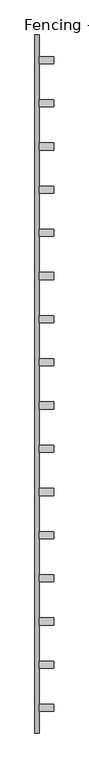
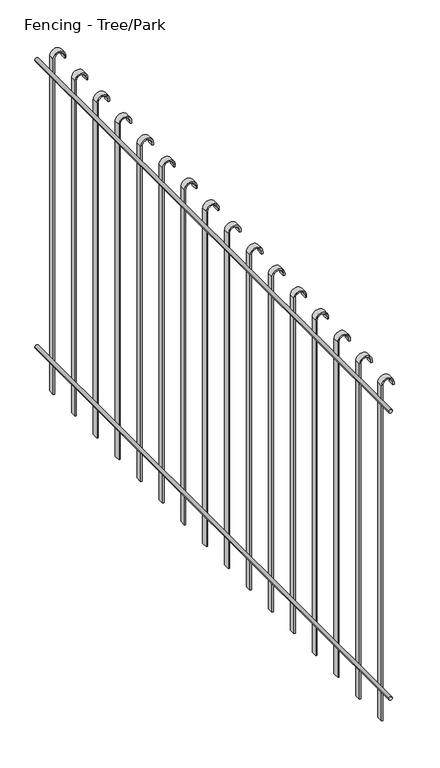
"""IFC4 building model written with IfcOpenShell, lengths in millimetres: railing geometry, Fencing - Tree/Park."""

from ifc_helpers import new_model, si_unit, point, frame, frame_2d, origin, place, context, project, spatial, polyline, circle_curve, trimmed, segment, composite_curve, outline, extrude, source, transform, mapped, element, save


def fencing_tree_park_201aa649(model_context):
    return source(origin(), model_context, "Body", "SweptSolid", [
        extrude(outline(composite_curve([segment(trimmed(circle_curve(frame_2d((4192.5, -12795.7705062)), 7.5), [point((4192.5, -12788.2705062))], [point((4192.5, -12803.2705062))], False, "CARTESIAN"), True, "CONTINUOUS"), segment(trimmed(circle_curve(frame_2d((4192.5, -12795.7705062)), 7.5), [point((4192.5, -12803.2705062))], [point((4192.5, -12788.2705062))], False, "CARTESIAN"), True, "CONTINUOUS")], self_intersect=False)), frame((0.0, -35505.9199596, 0.0), z_axis=(0.0, 1.0, 0.0), x_axis=(0.0, 0.0, 1.0)), (0.0, 0.0, 1.0), 2425.0),
        extrude(outline(composite_curve([segment(trimmed(circle_curve(frame_2d((2992.5, -12795.7705062)), 7.5), [point((2992.5, -12788.2705062))], [point((2992.5, -12803.2705062))], False, "CARTESIAN"), True, "CONTINUOUS"), segment(trimmed(circle_curve(frame_2d((2992.5, -12795.7705062)), 7.5), [point((2992.5, -12803.2705062))], [point((2992.5, -12788.2705062))], False, "CARTESIAN"), True, "CONTINUOUS")], self_intersect=False)), frame((0.0, -35505.9199596, 0.0), z_axis=(0.0, 1.0, 0.0), x_axis=(0.0, 0.0, 1.0)), (0.0, 0.0, 1.0), 2425.0),
        extrude(outline(composite_curve([segment(polyline([(4250.0, -12788.2705062), (2850.0, -12788.2705062), (2850.0, -12783.2705062), (4250.0, -12783.2705062)]), True, "CONTINUOUS"), segment(trimmed(circle_curve(frame_2d((4250.0, -12763.2705062)), 20.0), [point((4250.0, -12783.2705062))], [point((4250.0, -12743.2705062))], True, "CARTESIAN"), True, "CONTINUOUS"), segment(polyline([(4250.0, -12743.2705062), (4240.0, -12743.2705062), (4240.0, -12738.2705062), (4250.0, -12738.2705062)]), True, "CONTINUOUS"), segment(trimmed(circle_curve(frame_2d((4250.0, -12763.2705062)), 25.0), [point((4250.0, -12738.2705062))], [point((4250.0, -12788.2705062))], False, "CARTESIAN"), True, "CONTINUOUS")], self_intersect=False)), frame((0.0, -35430.9199596, 0.0), z_axis=(0.0, 1.0, 0.0), x_axis=(0.0, 0.0, 1.0)), (0.0, 0.0, 1.0), 25.0),
        extrude(outline(composite_curve([segment(polyline([(4250.0, -12788.2705062), (2850.0, -12788.2705062), (2850.0, -12783.2705062), (4250.0, -12783.2705062)]), True, "CONTINUOUS"), segment(trimmed(circle_curve(frame_2d((4250.0, -12763.2705062)), 20.0), [point((4250.0, -12783.2705062))], [point((4250.0, -12743.2705062))], True, "CARTESIAN"), True, "CONTINUOUS"), segment(polyline([(4250.0, -12743.2705062), (4240.0, -12743.2705062), (4240.0, -12738.2705062), (4250.0, -12738.2705062)]), True, "CONTINUOUS"), segment(trimmed(circle_curve(frame_2d((4250.0, -12763.2705062)), 25.0), [point((4250.0, -12738.2705062))], [point((4250.0, -12788.2705062))], False, "CARTESIAN"), True, "CONTINUOUS")], self_intersect=False)), frame((0.0, -35280.9199596, 0.0), z_axis=(0.0, 1.0, 0.0), x_axis=(0.0, 0.0, 1.0)), (0.0, 0.0, 1.0), 25.0),
        extrude(outline(composite_curve([segment(polyline([(4250.0, -12788.2705062), (2850.0, -12788.2705062), (2850.0, -12783.2705062), (4250.0, -12783.2705062)]), True, "CONTINUOUS"), segment(trimmed(circle_curve(frame_2d((4250.0, -12763.2705062)), 20.0), [point((4250.0, -12783.2705062))], [point((4250.0, -12743.2705062))], True, "CARTESIAN"), True, "CONTINUOUS"), segment(polyline([(4250.0, -12743.2705062), (4240.0, -12743.2705062), (4240.0, -12738.2705062), (4250.0, -12738.2705062)]), True, "CONTINUOUS"), segment(trimmed(circle_curve(frame_2d((4250.0, -12763.2705062)), 25.0), [point((4250.0, -12738.2705062))], [point((4250.0, -12788.2705062))], False, "CARTESIAN"), True, "CONTINUOUS")], self_intersect=False)), frame((0.0, -35130.9199596, 0.0), z_axis=(0.0, 1.0, 0.0), x_axis=(0.0, 0.0, 1.0)), (0.0, 0.0, 1.0), 25.0),
        extrude(outline(composite_curve([segment(polyline([(4250.0, -12788.2705062), (2850.0, -12788.2705062), (2850.0, -12783.2705062), (4250.0, -12783.2705062)]), True, "CONTINUOUS"), segment(trimmed(circle_curve(frame_2d((4250.0, -12763.2705062)), 20.0), [point((4250.0, -12783.2705062))], [point((4250.0, -12743.2705062))], True, "CARTESIAN"), True, "CONTINUOUS"), segment(polyline([(4250.0, -12743.2705062), (4240.0, -12743.2705062), (4240.0, -12738.2705062), (4250.0, -12738.2705062)]), True, "CONTINUOUS"), segment(trimmed(circle_curve(frame_2d((4250.0, -12763.2705062)), 25.0), [point((4250.0, -12738.2705062))], [point((4250.0, -12788.2705062))], False, "CARTESIAN"), True, "CONTINUOUS")], self_intersect=False)), frame((0.0, -34980.9199596, 0.0), z_axis=(0.0, 1.0, 0.0), x_axis=(0.0, 0.0, 1.0)), (0.0, 0.0, 1.0), 25.0),
        extrude(outline(composite_curve([segment(polyline([(4250.0, -12788.2705062), (2850.0, -12788.2705062), (2850.0, -12783.2705062), (4250.0, -12783.2705062)]), True, "CONTINUOUS"), segment(trimmed(circle_curve(frame_2d((4250.0, -12763.2705062)), 20.0), [point((4250.0, -12783.2705062))], [point((4250.0, -12743.2705062))], True, "CARTESIAN"), True, "CONTINUOUS"), segment(polyline([(4250.0, -12743.2705062), (4240.0, -12743.2705062), (4240.0, -12738.2705062), (4250.0, -12738.2705062)]), True, "CONTINUOUS"), segment(trimmed(circle_curve(frame_2d((4250.0, -12763.2705062)), 25.0), [point((4250.0, -12738.2705062))], [point((4250.0, -12788.2705062))], False, "CARTESIAN"), True, "CONTINUOUS")], self_intersect=False)), frame((0.0, -34830.9199596, 0.0), z_axis=(0.0, 1.0, 0.0), x_axis=(0.0, 0.0, 1.0)), (0.0, 0.0, 1.0), 25.0),
        extrude(outline(composite_curve([segment(polyline([(4250.0, -12788.2705062), (2850.0, -12788.2705062), (2850.0, -12783.2705062), (4250.0, -12783.2705062)]), True, "CONTINUOUS"), segment(trimmed(circle_curve(frame_2d((4250.0, -12763.2705062)), 20.0), [point((4250.0, -12783.2705062))], [point((4250.0, -12743.2705062))], True, "CARTESIAN"), True, "CONTINUOUS"), segment(polyline([(4250.0, -12743.2705062), (4240.0, -12743.2705062), (4240.0, -12738.2705062), (4250.0, -12738.2705062)]), True, "CONTINUOUS"), segment(trimmed(circle_curve(frame_2d((4250.0, -12763.2705062)), 25.0), [point((4250.0, -12738.2705062))], [point((4250.0, -12788.2705062))], False, "CARTESIAN"), True, "CONTINUOUS")], self_intersect=False)), frame((0.0, -34680.9199596, 0.0), z_axis=(0.0, 1.0, 0.0), x_axis=(0.0, 0.0, 1.0)), (0.0, 0.0, 1.0), 25.0),
        extrude(outline(composite_curve([segment(polyline([(4250.0, -12788.2705062), (2850.0, -12788.2705062), (2850.0, -12783.2705062), (4250.0, -12783.2705062)]), True, "CONTINUOUS"), segment(trimmed(circle_curve(frame_2d((4250.0, -12763.2705062)), 20.0), [point((4250.0, -12783.2705062))], [point((4250.0, -12743.2705062))], True, "CARTESIAN"), True, "CONTINUOUS"), segment(polyline([(4250.0, -12743.2705062), (4240.0, -12743.2705062), (4240.0, -12738.2705062), (4250.0, -12738.2705062)]), True, "CONTINUOUS"), segment(trimmed(circle_curve(frame_2d((4250.0, -12763.2705062)), 25.0), [point((4250.0, -12738.2705062))], [point((4250.0, -12788.2705062))], False, "CARTESIAN"), True, "CONTINUOUS")], self_intersect=False)), frame((0.0, -34530.9199596, 0.0), z_axis=(0.0, 1.0, 0.0), x_axis=(0.0, 0.0, 1.0)), (0.0, 0.0, 1.0), 25.0),
        extrude(outline(composite_curve([segment(polyline([(4250.0, -12788.2705062), (2850.0, -12788.2705062), (2850.0, -12783.2705062), (4250.0, -12783.2705062)]), True, "CONTINUOUS"), segment(trimmed(circle_curve(frame_2d((4250.0, -12763.2705062)), 20.0), [point((4250.0, -12783.2705062))], [point((4250.0, -12743.2705062))], True, "CARTESIAN"), True, "CONTINUOUS"), segment(polyline([(4250.0, -12743.2705062), (4240.0, -12743.2705062), (4240.0, -12738.2705062), (4250.0, -12738.2705062)]), True, "CONTINUOUS"), segment(trimmed(circle_curve(frame_2d((4250.0, -12763.2705062)), 25.0), [point((4250.0, -12738.2705062))], [point((4250.0, -12788.2705062))], False, "CARTESIAN"), True, "CONTINUOUS")], self_intersect=False)), frame((0.0, -34380.9199596, 0.0), z_axis=(0.0, 1.0, 0.0), x_axis=(0.0, 0.0, 1.0)), (0.0, 0.0, 1.0), 25.0),
        extrude(outline(composite_curve([segment(polyline([(4250.0, -12788.2705062), (2850.0, -12788.2705062), (2850.0, -12783.2705062), (4250.0, -12783.2705062)]), True, "CONTINUOUS"), segment(trimmed(circle_curve(frame_2d((4250.0, -12763.2705062)), 20.0), [point((4250.0, -12783.2705062))], [point((4250.0, -12743.2705062))], True, "CARTESIAN"), True, "CONTINUOUS"), segment(polyline([(4250.0, -12743.2705062), (4240.0, -12743.2705062), (4240.0, -12738.2705062), (4250.0, -12738.2705062)]), True, "CONTINUOUS"), segment(trimmed(circle_curve(frame_2d((4250.0, -12763.2705062)), 25.0), [point((4250.0, -12738.2705062))], [point((4250.0, -12788.2705062))], False, "CARTESIAN"), True, "CONTINUOUS")], self_intersect=False)), frame((0.0, -34230.9199596, 0.0), z_axis=(0.0, 1.0, 0.0), x_axis=(0.0, 0.0, 1.0)), (0.0, 0.0, 1.0), 25.0),
        extrude(outline(composite_curve([segment(polyline([(4250.0, -12788.2705062), (2850.0, -12788.2705062), (2850.0, -12783.2705062), (4250.0, -12783.2705062)]), True, "CONTINUOUS"), segment(trimmed(circle_curve(frame_2d((4250.0, -12763.2705062)), 20.0), [point((4250.0, -12783.2705062))], [point((4250.0, -12743.2705062))], True, "CARTESIAN"), True, "CONTINUOUS"), segment(polyline([(4250.0, -12743.2705062), (4240.0, -12743.2705062), (4240.0, -12738.2705062), (4250.0, -12738.2705062)]), True, "CONTINUOUS"), segment(trimmed(circle_curve(frame_2d((4250.0, -12763.2705062)), 25.0), [point((4250.0, -12738.2705062))], [point((4250.0, -12788.2705062))], False, "CARTESIAN"), True, "CONTINUOUS")], self_intersect=False)), frame((0.0, -34080.9199596, 0.0), z_axis=(0.0, 1.0, 0.0), x_axis=(0.0, 0.0, 1.0)), (0.0, 0.0, 1.0), 25.0),
        extrude(outline(composite_curve([segment(polyline([(4250.0, -12788.2705062), (2850.0, -12788.2705062), (2850.0, -12783.2705062), (4250.0, -12783.2705062)]), True, "CONTINUOUS"), segment(trimmed(circle_curve(frame_2d((4250.0, -12763.2705062)), 20.0), [point((4250.0, -12783.2705062))], [point((4250.0, -12743.2705062))], True, "CARTESIAN"), True, "CONTINUOUS"), segment(polyline([(4250.0, -12743.2705062), (4240.0, -12743.2705062), (4240.0, -12738.2705062), (4250.0, -12738.2705062)]), True, "CONTINUOUS"), segment(trimmed(circle_curve(frame_2d((4250.0, -12763.2705062)), 25.0), [point((4250.0, -12738.2705062))], [point((4250.0, -12788.2705062))], False, "CARTESIAN"), True, "CONTINUOUS")], self_intersect=False)), frame((0.0, -33930.9199596, 0.0), z_axis=(0.0, 1.0, 0.0), x_axis=(0.0, 0.0, 1.0)), (0.0, 0.0, 1.0), 25.0),
        extrude(outline(composite_curve([segment(polyline([(4250.0, -12788.2705062), (2850.0, -12788.2705062), (2850.0, -12783.2705062), (4250.0, -12783.2705062)]), True, "CONTINUOUS"), segment(trimmed(circle_curve(frame_2d((4250.0, -12763.2705062)), 20.0), [point((4250.0, -12783.2705062))], [point((4250.0, -12743.2705062))], True, "CARTESIAN"), True, "CONTINUOUS"), segment(polyline([(4250.0, -12743.2705062), (4240.0, -12743.2705062), (4240.0, -12738.2705062), (4250.0, -12738.2705062)]), True, "CONTINUOUS"), segment(trimmed(circle_curve(frame_2d((4250.0, -12763.2705062)), 25.0), [point((4250.0, -12738.2705062))], [point((4250.0, -12788.2705062))], False, "CARTESIAN"), True, "CONTINUOUS")], self_intersect=False)), frame((0.0, -33780.9199596, 0.0), z_axis=(0.0, 1.0, 0.0), x_axis=(0.0, 0.0, 1.0)), (0.0, 0.0, 1.0), 25.0),
        extrude(outline(composite_curve([segment(polyline([(4250.0, -12788.2705062), (2850.0, -12788.2705062), (2850.0, -12783.2705062), (4250.0, -12783.2705062)]), True, "CONTINUOUS"), segment(trimmed(circle_curve(frame_2d((4250.0, -12763.2705062)), 20.0), [point((4250.0, -12783.2705062))], [point((4250.0, -12743.2705062))], True, "CARTESIAN"), True, "CONTINUOUS"), segment(polyline([(4250.0, -12743.2705062), (4240.0, -12743.2705062), (4240.0, -12738.2705062), (4250.0, -12738.2705062)]), True, "CONTINUOUS"), segment(trimmed(circle_curve(frame_2d((4250.0, -12763.2705062)), 25.0), [point((4250.0, -12738.2705062))], [point((4250.0, -12788.2705062))], False, "CARTESIAN"), True, "CONTINUOUS")], self_intersect=False)), frame((0.0, -33630.9199596, 0.0), z_axis=(0.0, 1.0, 0.0), x_axis=(0.0, 0.0, 1.0)), (0.0, 0.0, 1.0), 25.0),
        extrude(outline(composite_curve([segment(polyline([(4250.0, -12788.2705062), (2850.0, -12788.2705062), (2850.0, -12783.2705062), (4250.0, -12783.2705062)]), True, "CONTINUOUS"), segment(trimmed(circle_curve(frame_2d((4250.0, -12763.2705062)), 20.0), [point((4250.0, -12783.2705062))], [point((4250.0, -12743.2705062))], True, "CARTESIAN"), True, "CONTINUOUS"), segment(polyline([(4250.0, -12743.2705062), (4240.0, -12743.2705062), (4240.0, -12738.2705062), (4250.0, -12738.2705062)]), True, "CONTINUOUS"), segment(trimmed(circle_curve(frame_2d((4250.0, -12763.2705062)), 25.0), [point((4250.0, -12738.2705062))], [point((4250.0, -12788.2705062))], False, "CARTESIAN"), True, "CONTINUOUS")], self_intersect=False)), frame((0.0, -33480.9199596, 0.0), z_axis=(0.0, 1.0, 0.0), x_axis=(0.0, 0.0, 1.0)), (0.0, 0.0, 1.0), 25.0),
        extrude(outline(composite_curve([segment(polyline([(4250.0, -12788.2705062), (2850.0, -12788.2705062), (2850.0, -12783.2705062), (4250.0, -12783.2705062)]), True, "CONTINUOUS"), segment(trimmed(circle_curve(frame_2d((4250.0, -12763.2705062)), 20.0), [point((4250.0, -12783.2705062))], [point((4250.0, -12743.2705062))], True, "CARTESIAN"), True, "CONTINUOUS"), segment(polyline([(4250.0, -12743.2705062), (4240.0, -12743.2705062), (4240.0, -12738.2705062), (4250.0, -12738.2705062)]), True, "CONTINUOUS"), segment(trimmed(circle_curve(frame_2d((4250.0, -12763.2705062)), 25.0), [point((4250.0, -12738.2705062))], [point((4250.0, -12788.2705062))], False, "CARTESIAN"), True, "CONTINUOUS")], self_intersect=False)), frame((0.0, -33330.9199596, 0.0), z_axis=(0.0, 1.0, 0.0), x_axis=(0.0, 0.0, 1.0)), (0.0, 0.0, 1.0), 25.0),
        extrude(outline(composite_curve([segment(polyline([(4250.0, -12788.2705062), (2850.0, -12788.2705062), (2850.0, -12783.2705062), (4250.0, -12783.2705062)]), True, "CONTINUOUS"), segment(trimmed(circle_curve(frame_2d((4250.0, -12763.2705062)), 20.0), [point((4250.0, -12783.2705062))], [point((4250.0, -12743.2705062))], True, "CARTESIAN"), True, "CONTINUOUS"), segment(polyline([(4250.0, -12743.2705062), (4240.0, -12743.2705062), (4240.0, -12738.2705062), (4250.0, -12738.2705062)]), True, "CONTINUOUS"), segment(trimmed(circle_curve(frame_2d((4250.0, -12763.2705062)), 25.0), [point((4250.0, -12738.2705062))], [point((4250.0, -12788.2705062))], False, "CARTESIAN"), True, "CONTINUOUS")], self_intersect=False)), frame((0.0, -33180.9199596, 0.0), z_axis=(0.0, 1.0, 0.0), x_axis=(0.0, 0.0, 1.0)), (0.0, 0.0, 1.0), 25.0),
    ])


if __name__ == "__main__":
    model = new_model("IFC4")
    model_context = context("Model", 3, world=origin())
    ifc_project = project(units=[si_unit("LENGTHUNIT", "METRE", prefix="MILLI")], contexts=[model_context])
    site = spatial("IfcSite", under=ifc_project)
    building = spatial("IfcBuilding", under=site)
    placement = place(None, origin())
    fencing_tree_park_shape = fencing_tree_park_201aa649(model_context)
    element("IfcRailing", 1, ObjectType="Fencing - Tree/Park", at=placement, inside=building, context=model_context, shape_type="MappedRepresentation", body=[
        mapped(fencing_tree_park_shape, transform((0.0, 0.0, 0.0), x_axis=(1.0, 0.0, 0.0), y_axis=(0.0, 1.0, 0.0), z_axis=(0.0, 0.0, 1.0))),
    ])
    save(model, "model.ifc")
